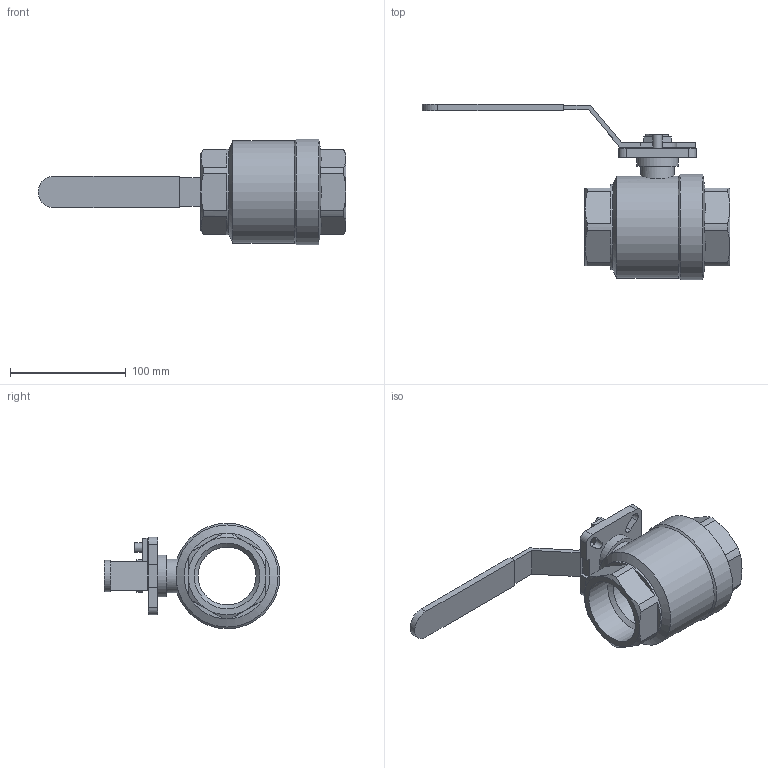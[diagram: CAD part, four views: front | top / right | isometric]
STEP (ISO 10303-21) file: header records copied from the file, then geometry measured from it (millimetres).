
FILE_DESCRIPTION (( 'STEP AP203' ), '1' );
FILE_NAME ('B3.622I050IFVPB0.STEP', '2018-09-28T14:43:15', ( 'dell2' ), ( 'Microsoft' ), 'SwSTEP 2.0', 'SolidWorks 2014', '' );
FILE_SCHEMA (( 'CONFIG_CONTROL_DESIGN' ));
Length unit declared in the file: millimetre
Products named in the file (1): B3.622I050IFVPB0
Bounding box: 265.5 x 151.5 x 91 mm (x, y, z)
Volume: 468172.8 mm3; surface area: 87494.7 mm2
Topology: 1 solids, 1 shells, 126 faces, 325 edges, 209 vertices
Faces by surface type: plane 80, cylinder 29, cone 17
Full cylindrical faces by diameter (mm): 8 x1, 29 x1, 36 x1, 50 x1, 56.7 x2, 74 x1, 88 x1, 91 x1
Entity records: 4060 total; most frequent: CARTESIAN_POINT 951, ORIENTED_EDGE 618, DIRECTION 612, EDGE_CURVE 309, VERTEX_POINT 207, AXIS2_PLACEMENT_3D 207, VECTOR 198, LINE 198
